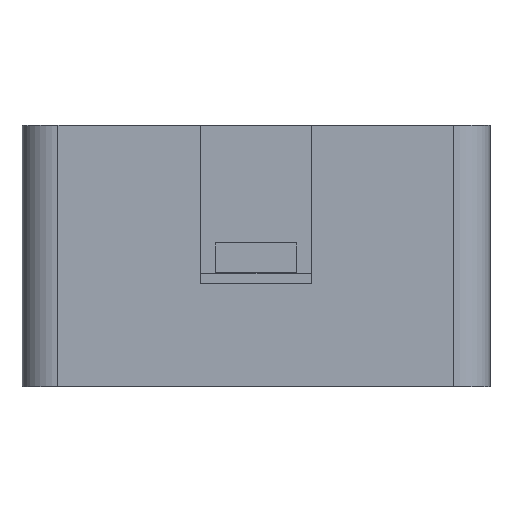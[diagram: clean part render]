
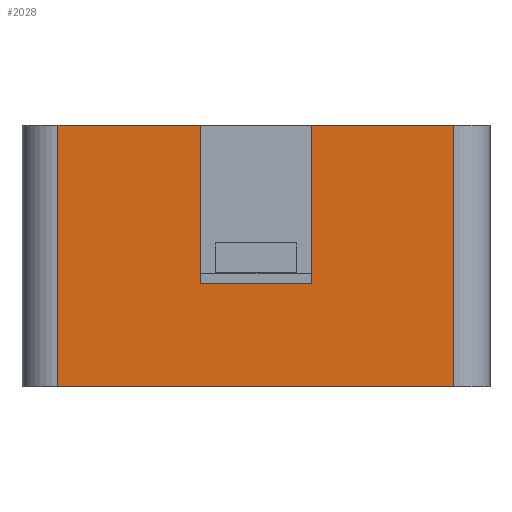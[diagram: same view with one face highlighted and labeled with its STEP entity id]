
A CAD part, left-side view. The second image highlights one B-rep face of the part: STEP entity #2028.
In plain terms, the highlighted planar face has unit normal (-1, 0, 0).
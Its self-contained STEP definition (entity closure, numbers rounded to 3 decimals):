
#74 = PLANE('',#75);
#75 = AXIS2_PLACEMENT_3D('',#76,#77,#78);
#76 = CARTESIAN_POINT('',(0.,0.,0.));
#77 = DIRECTION('',(0.,0.,1.));
#78 = DIRECTION('',(1.,0.,-0.));
#102 = CYLINDRICAL_SURFACE('',#103,4.);
#103 = AXIS2_PLACEMENT_3D('',#104,#105,#106);
#104 = CARTESIAN_POINT('',(-28.5,-22.,0.));
#105 = DIRECTION('',(0.,0.,1.));
#106 = DIRECTION('',(0.,-1.,0.));
#130 = PLANE('',#131);
#131 = AXIS2_PLACEMENT_3D('',#132,#133,#134);
#132 = CARTESIAN_POINT('',(0.,0.,29.));
#133 = DIRECTION('',(0.,0.,1.));
#134 = DIRECTION('',(1.,0.,-0.));
#505 = VERTEX_POINT('',#506);
#506 = CARTESIAN_POINT('',(-32.5,22.,0.));
#521 = CYLINDRICAL_SURFACE('',#522,4.);
#522 = AXIS2_PLACEMENT_3D('',#523,#524,#525);
#523 = CARTESIAN_POINT('',(-28.5,22.,0.));
#524 = DIRECTION('',(0.,0.,1.));
#525 = DIRECTION('',(-0.,1.,0.));
#533 = EDGE_CURVE('',#505,#534,#536,.T.);
#534 = VERTEX_POINT('',#535);
#535 = CARTESIAN_POINT('',(-32.5,-22.,0.));
#536 = SURFACE_CURVE('',#537,(#541,#548),.PCURVE_S1.);
#537 = LINE('',#538,#539);
#538 = CARTESIAN_POINT('',(-32.5,26.,0.));
#539 = VECTOR('',#540,1.);
#540 = DIRECTION('',(0.,-1.,0.));
#541 = PCURVE('',#74,#542);
#542 = DEFINITIONAL_REPRESENTATION('',(#543),#547);
#543 = LINE('',#544,#545);
#544 = CARTESIAN_POINT('',(-32.5,26.));
#545 = VECTOR('',#546,1.);
#546 = DIRECTION('',(0.,-1.));
#547 = ( GEOMETRIC_REPRESENTATION_CONTEXT(2) 
PARAMETRIC_REPRESENTATION_CONTEXT() REPRESENTATION_CONTEXT('2D SPACE',''
  ) );
#548 = PCURVE('',#549,#554);
#549 = PLANE('',#550);
#550 = AXIS2_PLACEMENT_3D('',#551,#552,#553);
#551 = CARTESIAN_POINT('',(-32.5,26.,0.));
#552 = DIRECTION('',(1.,0.,-0.));
#553 = DIRECTION('',(0.,-1.,0.));
#554 = DEFINITIONAL_REPRESENTATION('',(#555),#559);
#555 = LINE('',#556,#557);
#556 = CARTESIAN_POINT('',(0.,0.));
#557 = VECTOR('',#558,1.);
#558 = DIRECTION('',(1.,0.));
#559 = ( GEOMETRIC_REPRESENTATION_CONTEXT(2) 
PARAMETRIC_REPRESENTATION_CONTEXT() REPRESENTATION_CONTEXT('2D SPACE',''
  ) );
#591 = EDGE_CURVE('',#534,#592,#594,.T.);
#592 = VERTEX_POINT('',#593);
#593 = CARTESIAN_POINT('',(-32.5,-22.,29.));
#594 = SURFACE_CURVE('',#595,(#599,#606),.PCURVE_S1.);
#595 = LINE('',#596,#597);
#596 = CARTESIAN_POINT('',(-32.5,-22.,0.));
#597 = VECTOR('',#598,1.);
#598 = DIRECTION('',(0.,0.,1.));
#599 = PCURVE('',#102,#600);
#600 = DEFINITIONAL_REPRESENTATION('',(#601),#605);
#601 = LINE('',#602,#603);
#602 = CARTESIAN_POINT('',(-1.571,0.));
#603 = VECTOR('',#604,1.);
#604 = DIRECTION('',(-0.,1.));
#605 = ( GEOMETRIC_REPRESENTATION_CONTEXT(2) 
PARAMETRIC_REPRESENTATION_CONTEXT() REPRESENTATION_CONTEXT('2D SPACE',''
  ) );
#606 = PCURVE('',#549,#607);
#607 = DEFINITIONAL_REPRESENTATION('',(#608),#612);
#608 = LINE('',#609,#610);
#609 = CARTESIAN_POINT('',(48.,0.));
#610 = VECTOR('',#611,1.);
#611 = DIRECTION('',(0.,-1.));
#612 = ( GEOMETRIC_REPRESENTATION_CONTEXT(2) 
PARAMETRIC_REPRESENTATION_CONTEXT() REPRESENTATION_CONTEXT('2D SPACE',''
  ) );
#768 = VERTEX_POINT('',#769);
#769 = CARTESIAN_POINT('',(-32.5,22.,29.));
#791 = EDGE_CURVE('',#768,#792,#794,.T.);
#792 = VERTEX_POINT('',#793);
#793 = CARTESIAN_POINT('',(-32.5,6.2,29.));
#794 = SURFACE_CURVE('',#795,(#799,#806),.PCURVE_S1.);
#795 = LINE('',#796,#797);
#796 = CARTESIAN_POINT('',(-32.5,26.,29.));
#797 = VECTOR('',#798,1.);
#798 = DIRECTION('',(0.,-1.,0.));
#799 = PCURVE('',#130,#800);
#800 = DEFINITIONAL_REPRESENTATION('',(#801),#805);
#801 = LINE('',#802,#803);
#802 = CARTESIAN_POINT('',(-32.5,26.));
#803 = VECTOR('',#804,1.);
#804 = DIRECTION('',(0.,-1.));
#805 = ( GEOMETRIC_REPRESENTATION_CONTEXT(2) 
PARAMETRIC_REPRESENTATION_CONTEXT() REPRESENTATION_CONTEXT('2D SPACE',''
  ) );
#806 = PCURVE('',#549,#807);
#807 = DEFINITIONAL_REPRESENTATION('',(#808),#812);
#808 = LINE('',#809,#810);
#809 = CARTESIAN_POINT('',(0.,-29.));
#810 = VECTOR('',#811,1.);
#811 = DIRECTION('',(1.,0.));
#812 = ( GEOMETRIC_REPRESENTATION_CONTEXT(2) 
PARAMETRIC_REPRESENTATION_CONTEXT() REPRESENTATION_CONTEXT('2D SPACE',''
  ) );
#830 = PLANE('',#831);
#831 = AXIS2_PLACEMENT_3D('',#832,#833,#834);
#832 = CARTESIAN_POINT('',(-35.5,6.2,11.4));
#833 = DIRECTION('',(0.,1.,0.));
#834 = DIRECTION('',(0.,0.,1.));
#1191 = VERTEX_POINT('',#1192);
#1192 = CARTESIAN_POINT('',(-32.5,-6.2,29.));
#1206 = PLANE('',#1207);
#1207 = AXIS2_PLACEMENT_3D('',#1208,#1209,#1210);
#1208 = CARTESIAN_POINT('',(-35.5,-6.2,11.4));
#1209 = DIRECTION('',(0.,1.,0.));
#1210 = DIRECTION('',(0.,0.,1.));
#1217 = EDGE_CURVE('',#1191,#592,#1218,.T.);
#1218 = SURFACE_CURVE('',#1219,(#1223,#1230),.PCURVE_S1.);
#1219 = LINE('',#1220,#1221);
#1220 = CARTESIAN_POINT('',(-32.5,26.,29.));
#1221 = VECTOR('',#1222,1.);
#1222 = DIRECTION('',(0.,-1.,0.));
#1223 = PCURVE('',#130,#1224);
#1224 = DEFINITIONAL_REPRESENTATION('',(#1225),#1229);
#1225 = LINE('',#1226,#1227);
#1226 = CARTESIAN_POINT('',(-32.5,26.));
#1227 = VECTOR('',#1228,1.);
#1228 = DIRECTION('',(0.,-1.));
#1229 = ( GEOMETRIC_REPRESENTATION_CONTEXT(2) 
PARAMETRIC_REPRESENTATION_CONTEXT() REPRESENTATION_CONTEXT('2D SPACE',''
  ) );
#1230 = PCURVE('',#549,#1231);
#1231 = DEFINITIONAL_REPRESENTATION('',(#1232),#1236);
#1232 = LINE('',#1233,#1234);
#1233 = CARTESIAN_POINT('',(0.,-29.));
#1234 = VECTOR('',#1235,1.);
#1235 = DIRECTION('',(1.,0.));
#1236 = ( GEOMETRIC_REPRESENTATION_CONTEXT(2) 
PARAMETRIC_REPRESENTATION_CONTEXT() REPRESENTATION_CONTEXT('2D SPACE',''
  ) );
#2028 = ADVANCED_FACE('',(#2029),#549,.F.);
#2029 = FACE_BOUND('',#2030,.F.);
#2030 = EDGE_LOOP('',(#2031,#2032,#2053,#2054,#2075,#2101,#2120,#2121));
#2031 = ORIENTED_EDGE('',*,*,#533,.F.);
#2032 = ORIENTED_EDGE('',*,*,#2033,.T.);
#2033 = EDGE_CURVE('',#505,#768,#2034,.T.);
#2034 = SURFACE_CURVE('',#2035,(#2039,#2046),.PCURVE_S1.);
#2035 = LINE('',#2036,#2037);
#2036 = CARTESIAN_POINT('',(-32.5,22.,0.));
#2037 = VECTOR('',#2038,1.);
#2038 = DIRECTION('',(0.,0.,1.));
#2039 = PCURVE('',#549,#2040);
#2040 = DEFINITIONAL_REPRESENTATION('',(#2041),#2045);
#2041 = LINE('',#2042,#2043);
#2042 = CARTESIAN_POINT('',(4.,0.));
#2043 = VECTOR('',#2044,1.);
#2044 = DIRECTION('',(0.,-1.));
#2045 = ( GEOMETRIC_REPRESENTATION_CONTEXT(2) 
PARAMETRIC_REPRESENTATION_CONTEXT() REPRESENTATION_CONTEXT('2D SPACE',''
  ) );
#2046 = PCURVE('',#521,#2047);
#2047 = DEFINITIONAL_REPRESENTATION('',(#2048),#2052);
#2048 = LINE('',#2049,#2050);
#2049 = CARTESIAN_POINT('',(1.571,0.));
#2050 = VECTOR('',#2051,1.);
#2051 = DIRECTION('',(0.,1.));
#2052 = ( GEOMETRIC_REPRESENTATION_CONTEXT(2) 
PARAMETRIC_REPRESENTATION_CONTEXT() REPRESENTATION_CONTEXT('2D SPACE',''
  ) );
#2053 = ORIENTED_EDGE('',*,*,#791,.T.);
#2054 = ORIENTED_EDGE('',*,*,#2055,.F.);
#2055 = EDGE_CURVE('',#2056,#792,#2058,.T.);
#2056 = VERTEX_POINT('',#2057);
#2057 = CARTESIAN_POINT('',(-32.5,6.2,11.4));
#2058 = SURFACE_CURVE('',#2059,(#2063,#2069),.PCURVE_S1.);
#2059 = LINE('',#2060,#2061);
#2060 = CARTESIAN_POINT('',(-32.5,6.2,5.7));
#2061 = VECTOR('',#2062,1.);
#2062 = DIRECTION('',(0.,-0.,1.));
#2063 = PCURVE('',#549,#2064);
#2064 = DEFINITIONAL_REPRESENTATION('',(#2065),#2068);
#2065 = B_SPLINE_CURVE_WITH_KNOTS('',1,(#2066,#2067),.UNSPECIFIED.,.F.,
  .F.,(2,2),(5.7,23.3),.PIECEWISE_BEZIER_KNOTS.);
#2066 = CARTESIAN_POINT('',(19.8,-11.4));
#2067 = CARTESIAN_POINT('',(19.8,-29.));
#2068 = ( GEOMETRIC_REPRESENTATION_CONTEXT(2) 
PARAMETRIC_REPRESENTATION_CONTEXT() REPRESENTATION_CONTEXT('2D SPACE',''
  ) );
#2069 = PCURVE('',#830,#2070);
#2070 = DEFINITIONAL_REPRESENTATION('',(#2071),#2074);
#2071 = B_SPLINE_CURVE_WITH_KNOTS('',1,(#2072,#2073),.UNSPECIFIED.,.F.,
  .F.,(2,2),(5.7,23.3),.PIECEWISE_BEZIER_KNOTS.);
#2072 = CARTESIAN_POINT('',(0.,3.));
#2073 = CARTESIAN_POINT('',(17.6,3.));
#2074 = ( GEOMETRIC_REPRESENTATION_CONTEXT(2) 
PARAMETRIC_REPRESENTATION_CONTEXT() REPRESENTATION_CONTEXT('2D SPACE',''
  ) );
#2075 = ORIENTED_EDGE('',*,*,#2076,.T.);
#2076 = EDGE_CURVE('',#2056,#2077,#2079,.T.);
#2077 = VERTEX_POINT('',#2078);
#2078 = CARTESIAN_POINT('',(-32.5,-6.2,11.4));
#2079 = SURFACE_CURVE('',#2080,(#2084,#2090),.PCURVE_S1.);
#2080 = LINE('',#2081,#2082);
#2081 = CARTESIAN_POINT('',(-32.5,9.9,11.4));
#2082 = VECTOR('',#2083,1.);
#2083 = DIRECTION('',(0.,-1.,0.));
#2084 = PCURVE('',#549,#2085);
#2085 = DEFINITIONAL_REPRESENTATION('',(#2086),#2089);
#2086 = B_SPLINE_CURVE_WITH_KNOTS('',1,(#2087,#2088),.UNSPECIFIED.,.F.,
  .F.,(2,2),(3.7,16.1),.PIECEWISE_BEZIER_KNOTS.);
#2087 = CARTESIAN_POINT('',(19.8,-11.4));
#2088 = CARTESIAN_POINT('',(32.2,-11.4));
#2089 = ( GEOMETRIC_REPRESENTATION_CONTEXT(2) 
PARAMETRIC_REPRESENTATION_CONTEXT() REPRESENTATION_CONTEXT('2D SPACE',''
  ) );
#2090 = PCURVE('',#2091,#2096);
#2091 = PLANE('',#2092);
#2092 = AXIS2_PLACEMENT_3D('',#2093,#2094,#2095);
#2093 = CARTESIAN_POINT('',(-35.5,-6.2,11.4));
#2094 = DIRECTION('',(0.,0.,1.));
#2095 = DIRECTION('',(1.,0.,0.));
#2096 = DEFINITIONAL_REPRESENTATION('',(#2097),#2100);
#2097 = B_SPLINE_CURVE_WITH_KNOTS('',1,(#2098,#2099),.UNSPECIFIED.,.F.,
  .F.,(2,2),(3.7,16.1),.PIECEWISE_BEZIER_KNOTS.);
#2098 = CARTESIAN_POINT('',(3.,12.4));
#2099 = CARTESIAN_POINT('',(3.,0.));
#2100 = ( GEOMETRIC_REPRESENTATION_CONTEXT(2) 
PARAMETRIC_REPRESENTATION_CONTEXT() REPRESENTATION_CONTEXT('2D SPACE',''
  ) );
#2101 = ORIENTED_EDGE('',*,*,#2102,.T.);
#2102 = EDGE_CURVE('',#2077,#1191,#2103,.T.);
#2103 = SURFACE_CURVE('',#2104,(#2108,#2114),.PCURVE_S1.);
#2104 = LINE('',#2105,#2106);
#2105 = CARTESIAN_POINT('',(-32.5,-6.2,5.7));
#2106 = VECTOR('',#2107,1.);
#2107 = DIRECTION('',(0.,-0.,1.));
#2108 = PCURVE('',#549,#2109);
#2109 = DEFINITIONAL_REPRESENTATION('',(#2110),#2113);
#2110 = B_SPLINE_CURVE_WITH_KNOTS('',1,(#2111,#2112),.UNSPECIFIED.,.F.,
  .F.,(2,2),(5.7,23.3),.PIECEWISE_BEZIER_KNOTS.);
#2111 = CARTESIAN_POINT('',(32.2,-11.4));
#2112 = CARTESIAN_POINT('',(32.2,-29.));
#2113 = ( GEOMETRIC_REPRESENTATION_CONTEXT(2) 
PARAMETRIC_REPRESENTATION_CONTEXT() REPRESENTATION_CONTEXT('2D SPACE',''
  ) );
#2114 = PCURVE('',#1206,#2115);
#2115 = DEFINITIONAL_REPRESENTATION('',(#2116),#2119);
#2116 = B_SPLINE_CURVE_WITH_KNOTS('',1,(#2117,#2118),.UNSPECIFIED.,.F.,
  .F.,(2,2),(5.7,23.3),.PIECEWISE_BEZIER_KNOTS.);
#2117 = CARTESIAN_POINT('',(0.,3.));
#2118 = CARTESIAN_POINT('',(17.6,3.));
#2119 = ( GEOMETRIC_REPRESENTATION_CONTEXT(2) 
PARAMETRIC_REPRESENTATION_CONTEXT() REPRESENTATION_CONTEXT('2D SPACE',''
  ) );
#2120 = ORIENTED_EDGE('',*,*,#1217,.T.);
#2121 = ORIENTED_EDGE('',*,*,#591,.F.);
